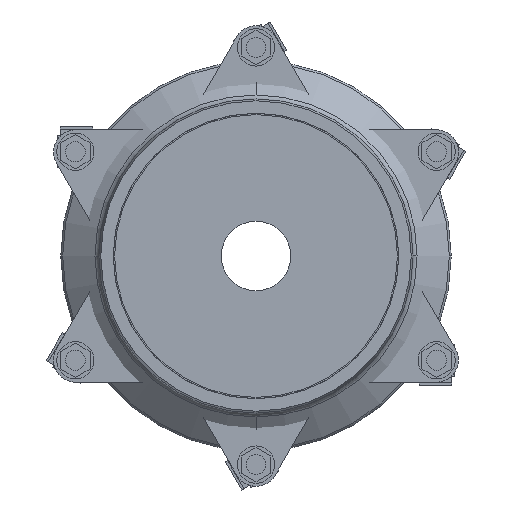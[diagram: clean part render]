
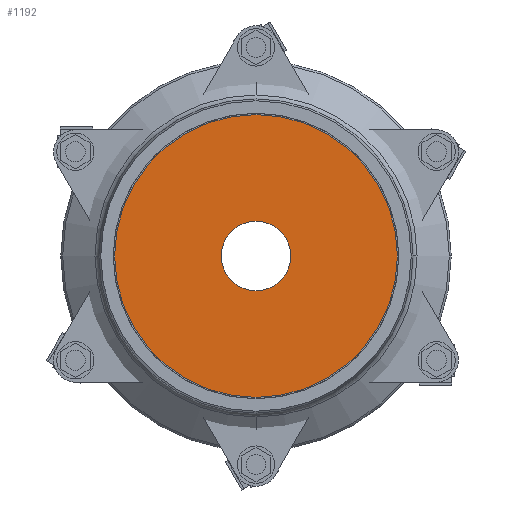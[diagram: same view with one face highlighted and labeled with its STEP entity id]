
A CAD part, left-side view. The second image highlights one B-rep face of the part: STEP entity #1192.
In plain terms, the highlighted planar face has unit normal (-1, 0, 0).
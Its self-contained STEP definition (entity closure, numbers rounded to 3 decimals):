
#1192=ADVANCED_FACE('',(#2388,#2389),#2390,.F.);
#2388=FACE_BOUND('',#3971,.T.);
#2389=FACE_OUTER_BOUND('',#3972,.T.);
#2390=PLANE('',#3973);
#3971=EDGE_LOOP('',(#5805,#5806));
#3972=EDGE_LOOP('',(#5807,#5808));
#3973=AXIS2_PLACEMENT_3D('',#5809,#5810,#5811);
#5805=ORIENTED_EDGE('',*,*,#8801,.T.);
#5806=ORIENTED_EDGE('',*,*,#8802,.T.);
#5807=ORIENTED_EDGE('',*,*,#8703,.T.);
#5808=ORIENTED_EDGE('',*,*,#8803,.T.);
#5809=CARTESIAN_POINT('',(113.5,0.0,0.));
#5810=DIRECTION('',(1.0,0.0,0.));
#5811=DIRECTION('',(0.,0.0,-1.0));
#8703=EDGE_CURVE('',#10301,#10303,#10305,.T.);
#8801=EDGE_CURVE('',#10454,#10455,#10456,.T.);
#8802=EDGE_CURVE('',#10455,#10454,#10457,.T.);
#8803=EDGE_CURVE('',#10303,#10301,#10458,.T.);
#10301=VERTEX_POINT('',#12561);
#10303=VERTEX_POINT('',#12564);
#10305=CIRCLE('',#12567,117.0);
#10454=VERTEX_POINT('',#12764);
#10455=VERTEX_POINT('',#12765);
#10456=CIRCLE('',#12766,28.0);
#10457=CIRCLE('',#12767,28.0);
#10458=CIRCLE('',#12768,117.0);
#12561=CARTESIAN_POINT('',(113.5,0.0,-117.0));
#12564=CARTESIAN_POINT('',(113.5,0.,117.0));
#12567=AXIS2_PLACEMENT_3D('',#14639,#14640,#14641);
#12764=CARTESIAN_POINT('',(113.5,0.0,-28.0));
#12765=CARTESIAN_POINT('',(113.5,0.,28.0));
#12766=AXIS2_PLACEMENT_3D('',#14756,#14757,#14758);
#12767=AXIS2_PLACEMENT_3D('',#14759,#14760,#14761);
#12768=AXIS2_PLACEMENT_3D('',#14762,#14763,#14764);
#14639=CARTESIAN_POINT('',(113.5,0.0,0.));
#14640=DIRECTION('',(-1.0,-0.0,0.));
#14641=DIRECTION('',(0.,0.0,-1.0));
#14756=CARTESIAN_POINT('',(113.5,0.0,0.));
#14757=DIRECTION('',(1.0,0.0,0.));
#14758=DIRECTION('',(0.,0.0,-1.0));
#14759=CARTESIAN_POINT('',(113.5,0.0,0.));
#14760=DIRECTION('',(1.0,0.0,0.));
#14761=DIRECTION('',(0.,0.0,-1.0));
#14762=CARTESIAN_POINT('',(113.5,0.0,0.));
#14763=DIRECTION('',(-1.0,-0.0,0.));
#14764=DIRECTION('',(0.,0.0,-1.0));
